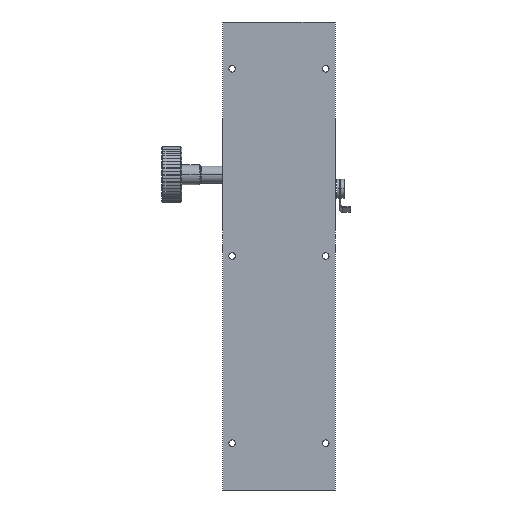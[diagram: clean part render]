
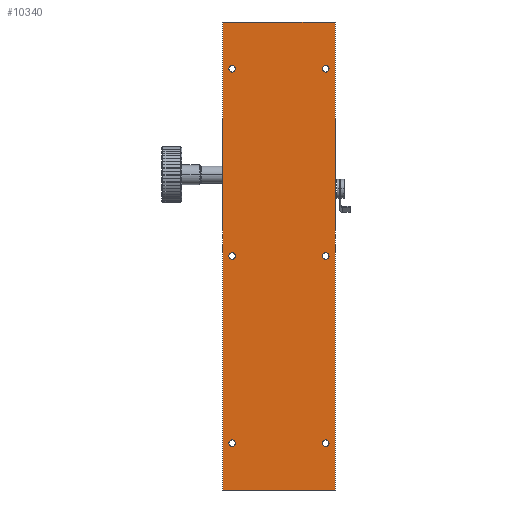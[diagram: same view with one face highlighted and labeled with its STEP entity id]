
A CAD part, front view. The second image highlights one B-rep face of the part: STEP entity #10340.
In plain terms, the highlighted planar face has unit normal (0, 1, 0).
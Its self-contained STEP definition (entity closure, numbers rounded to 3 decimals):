
#163 = VERTEX_POINT ( 'NONE', #10638 ) ;
#197 = EDGE_CURVE ( 'NONE', #6522, #8023, #7799, .T. ) ;
#211 = CARTESIAN_POINT ( 'NONE',  ( -29.573, -6.788, 375. ) ) ;
#231 = EDGE_LOOP ( 'NONE', ( #1190, #8292 ) ) ;
#261 = CARTESIAN_POINT ( 'NONE',  ( -29.573, -6.788, 125. ) ) ;
#511 = CARTESIAN_POINT ( 'NONE',  ( 25.427, -6.788, 348.25 ) ) ;
#521 = ORIENTED_EDGE ( 'NONE', *, *, #3571, .T. ) ;
#607 = DIRECTION ( 'NONE',  ( 0., -1., 0. ) ) ;
#612 = AXIS2_PLACEMENT_3D ( 'NONE', #10556, #5339, #4324 ) ;
#619 = DIRECTION ( 'NONE',  ( 0., -1., 0. ) ) ;
#688 = CARTESIAN_POINT ( 'NONE',  ( -24.573, -6.788, 150. ) ) ;
#741 = DIRECTION ( 'NONE',  ( 0., 0., 1. ) ) ;
#773 = DIRECTION ( 'NONE',  ( 0., 0., 1. ) ) ;
#803 = CIRCLE ( 'NONE', #8738, 1.75 ) ;
#1012 = EDGE_CURVE ( 'NONE', #3672, #3218, #9179, .T. ) ;
#1037 = ORIENTED_EDGE ( 'NONE', *, *, #197, .T. ) ;
#1071 = CIRCLE ( 'NONE', #1973, 1.75 ) ;
#1190 = ORIENTED_EDGE ( 'NONE', *, *, #2389, .T. ) ;
#1315 = ORIENTED_EDGE ( 'NONE', *, *, #11326, .T. ) ;
#1416 = ORIENTED_EDGE ( 'NONE', *, *, #8815, .T. ) ;
#1447 = DIRECTION ( 'NONE',  ( 0., 0., 1. ) ) ;
#1494 = FACE_BOUND ( 'NONE', #8705, .T. ) ;
#1651 = DIRECTION ( 'NONE',  ( 0., -1., 0. ) ) ;
#1763 = CARTESIAN_POINT ( 'NONE',  ( 25.427, -6.788, 251.75 ) ) ;
#1773 = CIRCLE ( 'NONE', #9305, 1.75 ) ;
#1801 = VERTEX_POINT ( 'NONE', #9099 ) ;
#1973 = AXIS2_PLACEMENT_3D ( 'NONE', #2866, #5604, #9186 ) ;
#1980 = CARTESIAN_POINT ( 'NONE',  ( 25.427, -6.788, 248.25 ) ) ;
#2024 = CARTESIAN_POINT ( 'NONE',  ( 25.427, -6.788, 350. ) ) ;
#2164 = VECTOR ( 'NONE', #9802, 1000. ) ;
#2369 = EDGE_LOOP ( 'NONE', ( #8288, #6349 ) ) ;
#2389 = EDGE_CURVE ( 'NONE', #8814, #8998, #2683, .T. ) ;
#2431 = DIRECTION ( 'NONE',  ( 0., -1., 0. ) ) ;
#2455 = LINE ( 'NONE', #211, #2164 ) ;
#2652 = DIRECTION ( 'NONE',  ( 0., 0., 1. ) ) ;
#2683 = CIRCLE ( 'NONE', #612, 1.75 ) ;
#2866 = CARTESIAN_POINT ( 'NONE',  ( 25.427, -6.788, 250. ) ) ;
#2878 = DIRECTION ( 'NONE',  ( 0., -1., 0. ) ) ;
#2884 = DIRECTION ( 'NONE',  ( 0., 0., 1. ) ) ;
#2913 = VECTOR ( 'NONE', #741, 1000. ) ;
#2936 = VERTEX_POINT ( 'NONE', #10279 ) ;
#2974 = VERTEX_POINT ( 'NONE', #8710 ) ;
#3173 = ORIENTED_EDGE ( 'NONE', *, *, #9628, .T. ) ;
#3218 = VERTEX_POINT ( 'NONE', #9082 ) ;
#3325 = VECTOR ( 'NONE', #9899, 1000. ) ;
#3404 = CIRCLE ( 'NONE', #8249, 1.75 ) ;
#3422 = ORIENTED_EDGE ( 'NONE', *, *, #8839, .T. ) ;
#3486 = AXIS2_PLACEMENT_3D ( 'NONE', #7929, #1651, #2652 ) ;
#3571 = EDGE_CURVE ( 'NONE', #3218, #11118, #8024, .T. ) ;
#3672 = VERTEX_POINT ( 'NONE', #9205 ) ;
#3805 = FACE_BOUND ( 'NONE', #2369, .T. ) ;
#3859 = EDGE_CURVE ( 'NONE', #11118, #10329, #9253, .T. ) ;
#3878 = CARTESIAN_POINT ( 'NONE',  ( -29.573, -6.788, 375. ) ) ;
#3955 = CIRCLE ( 'NONE', #9081, 1.75 ) ;
#4248 = CARTESIAN_POINT ( 'NONE',  ( -29.573, -6.788, 125. ) ) ;
#4324 = DIRECTION ( 'NONE',  ( 0., 0., 1. ) ) ;
#4417 = ORIENTED_EDGE ( 'NONE', *, *, #6541, .T. ) ;
#4464 = EDGE_CURVE ( 'NONE', #6907, #163, #9789, .T. ) ;
#4708 = AXIS2_PLACEMENT_3D ( 'NONE', #6020, #619, #773 ) ;
#4809 = ORIENTED_EDGE ( 'NONE', *, *, #6065, .T. ) ;
#4902 = CIRCLE ( 'NONE', #10688, 1.75 ) ;
#5237 = CARTESIAN_POINT ( 'NONE',  ( 30.427, -6.788, 375. ) ) ;
#5250 = EDGE_LOOP ( 'NONE', ( #8030, #1416 ) ) ;
#5322 = FACE_BOUND ( 'NONE', #6767, .T. ) ;
#5339 = DIRECTION ( 'NONE',  ( 0., -1., 0. ) ) ;
#5448 = CARTESIAN_POINT ( 'NONE',  ( -29.573, -6.788, 375. ) ) ;
#5469 = DIRECTION ( 'NONE',  ( 0., -1., 0. ) ) ;
#5512 = CARTESIAN_POINT ( 'NONE',  ( 25.427, -6.788, 250. ) ) ;
#5604 = DIRECTION ( 'NONE',  ( 0., -1., 0. ) ) ;
#5664 = ORIENTED_EDGE ( 'NONE', *, *, #3859, .T. ) ;
#5841 = CARTESIAN_POINT ( 'NONE',  ( -24.573, -6.788, 250. ) ) ;
#5891 = DIRECTION ( 'NONE',  ( 0., -1., 0. ) ) ;
#5899 = CIRCLE ( 'NONE', #7322, 1.75 ) ;
#5996 = CARTESIAN_POINT ( 'NONE',  ( -24.573, -6.788, 248.25 ) ) ;
#6020 = CARTESIAN_POINT ( 'NONE',  ( -24.573, -6.788, 350. ) ) ;
#6065 = EDGE_CURVE ( 'NONE', #2974, #9947, #3404, .T. ) ;
#6080 = CARTESIAN_POINT ( 'NONE',  ( -24.573, -6.788, 251.75 ) ) ;
#6166 = FACE_BOUND ( 'NONE', #5250, .T. ) ;
#6349 = ORIENTED_EDGE ( 'NONE', *, *, #8746, .T. ) ;
#6373 = AXIS2_PLACEMENT_3D ( 'NONE', #688, #2431, #7705 ) ;
#6522 = VERTEX_POINT ( 'NONE', #1980 ) ;
#6541 = EDGE_CURVE ( 'NONE', #8023, #6522, #1071, .T. ) ;
#6562 = DIRECTION ( 'NONE',  ( -1., 0., 0. ) ) ;
#6613 = ORIENTED_EDGE ( 'NONE', *, *, #10720, .T. ) ;
#6713 = CARTESIAN_POINT ( 'NONE',  ( -24.573, -6.788, 351.75 ) ) ;
#6767 = EDGE_LOOP ( 'NONE', ( #4809, #6613 ) ) ;
#6774 = EDGE_CURVE ( 'NONE', #8998, #8814, #9321, .T. ) ;
#6907 = VERTEX_POINT ( 'NONE', #7960 ) ;
#6951 = EDGE_LOOP ( 'NONE', ( #5664, #3173, #8591, #521 ) ) ;
#6965 = VECTOR ( 'NONE', #7014, 1000. ) ;
#7014 = DIRECTION ( 'NONE',  ( 0., 0., -1. ) ) ;
#7242 = DIRECTION ( 'NONE',  ( 0., 0., 1. ) ) ;
#7322 = AXIS2_PLACEMENT_3D ( 'NONE', #9369, #607, #7709 ) ;
#7346 = EDGE_LOOP ( 'NONE', ( #4417, #1037 ) ) ;
#7427 = DIRECTION ( 'NONE',  ( 0., -1., 0. ) ) ;
#7619 = DIRECTION ( 'NONE',  ( 0., -1., 0. ) ) ;
#7705 = DIRECTION ( 'NONE',  ( 0., 0., 1. ) ) ;
#7709 = DIRECTION ( 'NONE',  ( 0., 0., 1. ) ) ;
#7732 = DIRECTION ( 'NONE',  ( 0., 0., 1. ) ) ;
#7799 = CIRCLE ( 'NONE', #10297, 1.75 ) ;
#7921 = VERTEX_POINT ( 'NONE', #5996 ) ;
#7929 = CARTESIAN_POINT ( 'NONE',  ( 25.427, -6.788, 150. ) ) ;
#7947 = CARTESIAN_POINT ( 'NONE',  ( -24.573, -6.788, 348.25 ) ) ;
#7960 = CARTESIAN_POINT ( 'NONE',  ( 25.427, -6.788, 151.75 ) ) ;
#8023 = VERTEX_POINT ( 'NONE', #1763 ) ;
#8024 = LINE ( 'NONE', #261, #3325 ) ;
#8030 = ORIENTED_EDGE ( 'NONE', *, *, #10939, .T. ) ;
#8161 = CARTESIAN_POINT ( 'NONE',  ( 25.427, -6.788, 150. ) ) ;
#8204 = DIRECTION ( 'NONE',  ( 0., -1., 0. ) ) ;
#8226 = FACE_BOUND ( 'NONE', #7346, .T. ) ;
#8249 = AXIS2_PLACEMENT_3D ( 'NONE', #10192, #7427, #8420 ) ;
#8288 = ORIENTED_EDGE ( 'NONE', *, *, #4464, .T. ) ;
#8292 = ORIENTED_EDGE ( 'NONE', *, *, #6774, .T. ) ;
#8356 = FACE_OUTER_BOUND ( 'NONE', #6951, .T. ) ;
#8362 = DIRECTION ( 'NONE',  ( 0., 1., 0. ) ) ;
#8420 = DIRECTION ( 'NONE',  ( 0., 0., 1. ) ) ;
#8591 = ORIENTED_EDGE ( 'NONE', *, *, #1012, .T. ) ;
#8647 = FACE_BOUND ( 'NONE', #231, .T. ) ;
#8705 = EDGE_LOOP ( 'NONE', ( #1315, #3422 ) ) ;
#8710 = CARTESIAN_POINT ( 'NONE',  ( 25.427, -6.788, 351.75 ) ) ;
#8738 = AXIS2_PLACEMENT_3D ( 'NONE', #2024, #5469, #7242 ) ;
#8746 = EDGE_CURVE ( 'NONE', #163, #6907, #1773, .T. ) ;
#8801 = AXIS2_PLACEMENT_3D ( 'NONE', #9140, #8362, #6562 ) ;
#8814 = VERTEX_POINT ( 'NONE', #6713 ) ;
#8815 = EDGE_CURVE ( 'NONE', #7921, #8957, #3955, .T. ) ;
#8839 = EDGE_CURVE ( 'NONE', #2936, #1801, #5899, .T. ) ;
#8957 = VERTEX_POINT ( 'NONE', #6080 ) ;
#8998 = VERTEX_POINT ( 'NONE', #7947 ) ;
#9044 = DIRECTION ( 'NONE',  ( 0., 0., 1. ) ) ;
#9082 = CARTESIAN_POINT ( 'NONE',  ( 30.427, -6.788, 125. ) ) ;
#9081 = AXIS2_PLACEMENT_3D ( 'NONE', #10280, #5891, #1447 ) ;
#9099 = CARTESIAN_POINT ( 'NONE',  ( -24.573, -6.788, 151.75 ) ) ;
#9140 = CARTESIAN_POINT ( 'NONE',  ( -29.573, -6.788, 375. ) ) ;
#9179 = LINE ( 'NONE', #5237, #6965 ) ;
#9186 = DIRECTION ( 'NONE',  ( 0., 0., 1. ) ) ;
#9205 = CARTESIAN_POINT ( 'NONE',  ( 30.427, -6.788, 375. ) ) ;
#9253 = LINE ( 'NONE', #5448, #2913 ) ;
#9305 = AXIS2_PLACEMENT_3D ( 'NONE', #8161, #2878, #9044 ) ;
#9321 = CIRCLE ( 'NONE', #4708, 1.75 ) ;
#9369 = CARTESIAN_POINT ( 'NONE',  ( -24.573, -6.788, 150. ) ) ;
#9628 = EDGE_CURVE ( 'NONE', #10329, #3672, #2455, .T. ) ;
#9789 = CIRCLE ( 'NONE', #3486, 1.75 ) ;
#9802 = DIRECTION ( 'NONE',  ( 1., 0., 0. ) ) ;
#9899 = DIRECTION ( 'NONE',  ( -1., 0., 0. ) ) ;
#9947 = VERTEX_POINT ( 'NONE', #511 ) ;
#10192 = CARTESIAN_POINT ( 'NONE',  ( 25.427, -6.788, 350. ) ) ;
#10279 = CARTESIAN_POINT ( 'NONE',  ( -24.573, -6.788, 148.25 ) ) ;
#10280 = CARTESIAN_POINT ( 'NONE',  ( -24.573, -6.788, 250. ) ) ;
#10297 = AXIS2_PLACEMENT_3D ( 'NONE', #5512, #8204, #2884 ) ;
#10329 = VERTEX_POINT ( 'NONE', #3878 ) ;
#10340 = ADVANCED_FACE ( 'NONE', ( #3805, #1494, #8647, #8226, #6166, #5322, #8356 ), #10832, .T. ) ;
#10556 = CARTESIAN_POINT ( 'NONE',  ( -24.573, -6.788, 350. ) ) ;
#10638 = CARTESIAN_POINT ( 'NONE',  ( 25.427, -6.788, 148.25 ) ) ;
#10688 = AXIS2_PLACEMENT_3D ( 'NONE', #5841, #7619, #7732 ) ;
#10720 = EDGE_CURVE ( 'NONE', #9947, #2974, #803, .T. ) ;
#10832 = PLANE ( 'NONE',  #8801 ) ;
#10939 = EDGE_CURVE ( 'NONE', #8957, #7921, #4902, .T. ) ;
#11118 = VERTEX_POINT ( 'NONE', #4248 ) ;
#11232 = CIRCLE ( 'NONE', #6373, 1.75 ) ;
#11326 = EDGE_CURVE ( 'NONE', #1801, #2936, #11232, .T. ) ;
